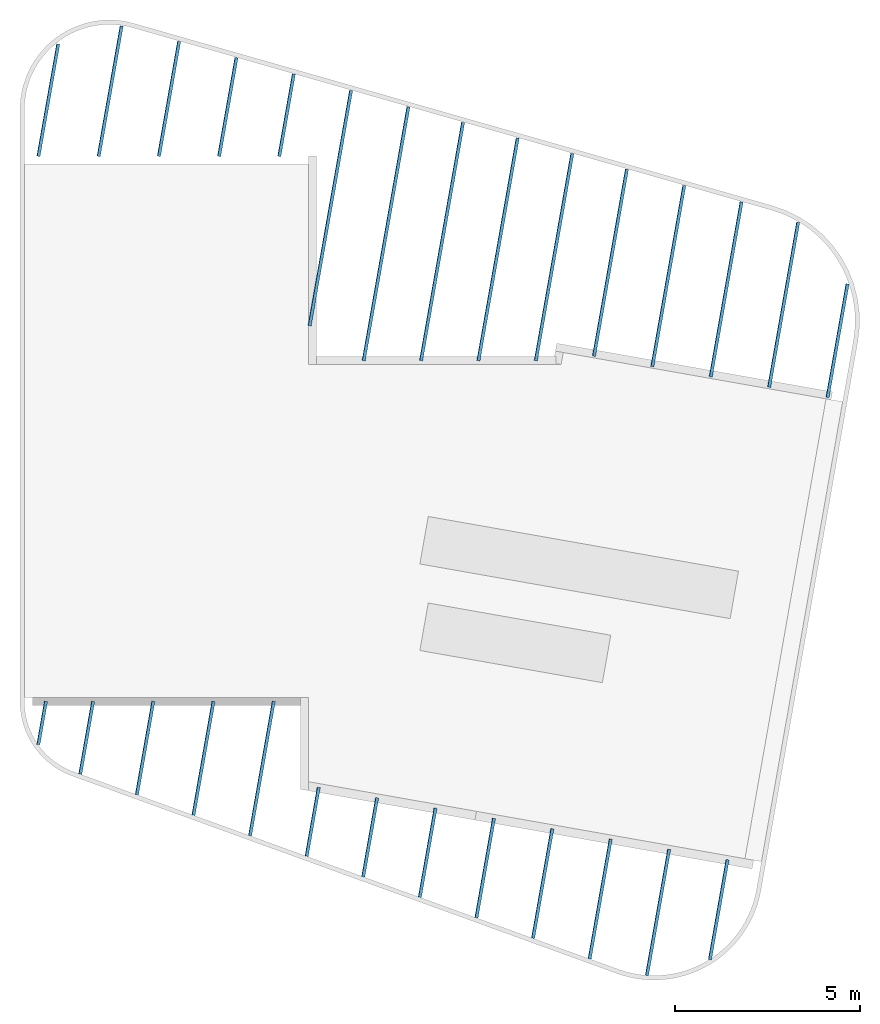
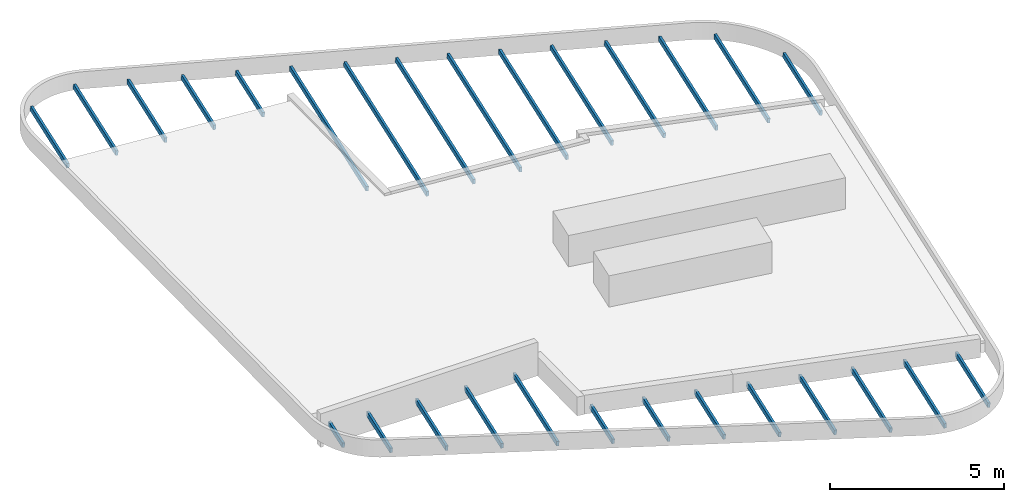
# One storey, part 1 of 3: 28 members, 2 elements without a shape of their own.
"""IFC2X3 building model written with IfcOpenShell, lengths in millimetres."""

from ifc_helpers import new_model, entity, si_unit, converted_unit, derived_unit, direction, frame, frame_2d, origin, origin_2d_with_axis, place, context, subcontext, project, spatial, rectangle, extrude, source, transform, mapped, material, type_object, type_shapes, element, aggregate, save


model = new_model("IFC2X3")

# Units and contexts
model_context = context("Model", 3, precision=0.01, world=origin(), true_north=direction((6.12303176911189e-17, 1.0)))
body_context = subcontext(model_context, "Body", "Model", "MODEL_VIEW")
ifc_project = project(units=[si_unit("LENGTHUNIT", "METRE", prefix="MILLI"), si_unit("AREAUNIT", "SQUARE_METRE"), si_unit("VOLUMEUNIT", "CUBIC_METRE"), converted_unit("PLANEANGLEUNIT", "DEGREE", entity("IfcRatioMeasure", 0.0174532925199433), si_unit("PLANEANGLEUNIT", "RADIAN"), dimensions=[0, 0, 0, 0, 0, 0, 0]), si_unit("MASSUNIT", "GRAM", prefix="KILO"), derived_unit("MASSDENSITYUNIT", [(si_unit("MASSUNIT", "GRAM", prefix="KILO"), 1), (si_unit("LENGTHUNIT", "METRE"), -3)]), si_unit("TIMEUNIT", "SECOND"), si_unit("FREQUENCYUNIT", "HERTZ"), si_unit("THERMODYNAMICTEMPERATUREUNIT", "DEGREE_CELSIUS"), derived_unit("THERMALTRANSMITTANCEUNIT", [(si_unit("MASSUNIT", "GRAM", prefix="KILO"), 1), (si_unit("THERMODYNAMICTEMPERATUREUNIT", "KELVIN"), -1), (si_unit("TIMEUNIT", "SECOND"), -3)]), derived_unit("VOLUMETRICFLOWRATEUNIT", [(si_unit("LENGTHUNIT", "METRE"), 3), (si_unit("TIMEUNIT", "SECOND"), -1)]), si_unit("ELECTRICCURRENTUNIT", "AMPERE"), si_unit("ELECTRICVOLTAGEUNIT", "VOLT"), si_unit("POWERUNIT", "WATT"), si_unit("FORCEUNIT", "NEWTON", prefix="KILO"), si_unit("ILLUMINANCEUNIT", "LUX"), si_unit("LUMINOUSFLUXUNIT", "LUMEN"), si_unit("LUMINOUSINTENSITYUNIT", "CANDELA"), derived_unit("USERDEFINED", [(si_unit("MASSUNIT", "GRAM", prefix="KILO"), -1), (si_unit("LENGTHUNIT", "METRE"), -2), (si_unit("TIMEUNIT", "SECOND"), 3), (si_unit("LUMINOUSFLUXUNIT", "LUMEN"), 1)]), derived_unit("LINEARVELOCITYUNIT", [(si_unit("LENGTHUNIT", "METRE"), 1), (si_unit("TIMEUNIT", "SECOND"), -1)]), si_unit("PRESSUREUNIT", "PASCAL"), derived_unit("USERDEFINED", [(si_unit("LENGTHUNIT", "METRE"), -2), (si_unit("MASSUNIT", "GRAM", prefix="KILO"), 1), (si_unit("TIMEUNIT", "SECOND"), -2)])], contexts=[model_context])

# Site, building, storey
site_placement = place(None, origin())
site = spatial("IfcSite", under=ifc_project, at=site_placement, Name="<Kadaster Gemeente>;<Kadaster nummer>;<Kadaster sectie>", CompositionType="ELEMENT")
building_placement = place(site_placement, origin())
building = spatial("IfcBuilding", under=site, at=building_placement, Name="JRCZ Middelburg", CompositionType="ELEMENT")
storey_placement = place(building_placement, frame((0.0, 0.0, 6000.0)))
storey = spatial("IfcBuildingStorey", under=building, at=storey_placement, Name="03 dak", CompositionType="ELEMENT", Elevation=6000.0)

# Roof, members
curtain_wall_type = type_object("IfcCurtainWallType", Name="Sloped Glazing:dakbalken", PredefinedType="NOTDEFINED")
roof_1_placement = place(storey_placement, frame((0.0, 0.0, -6000.0)))
roof_1 = element("IfcRoof", 1, at=roof_1_placement, inside=storey, type_object=curtain_wall_type, Name="Sloped Glazing:dakbalken", ObjectType="Sloped Glazing:dakbalken", ShapeType="NOTDEFINED")
ifc_material = material(Name="Staal")
member_type_1 = type_object("IfcMemberType", Name="dakbalk_80x160", PredefinedType="MEMBER")
shared_shape_1 = source(origin(), body_context, "Body", "SweptSolid", [
    extrude(rectangle(XDim=160.0, YDim=79.9999999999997, at=origin_2d_with_axis()), frame((0.0, -120.0, -3454.1834975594), z_axis=(0.0, 0.0, 1.0), x_axis=(0.0, -1.0, 0.0)), (0.0, 0.0, 1.0), 3454.1834975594),
])
type_shapes(member_type_1, [shared_shape_1])
placement = place(building_placement, origin())
member_1_placement = place(placement, frame((26326.4183682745, 2502.56536357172, 5874.05724691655), z_axis=(-0.173869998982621, -0.984768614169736, 0.0), x_axis=(-0.982010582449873, 0.173383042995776, 0.0747899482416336)))
member_1 = element("IfcMember", 2, at=member_1_placement, type_object=member_type_1, material=ifc_material, Name="Rectangular Mullion:dakbalk_80x160", ObjectType="Rectangular Mullion:dakbalk_80x160", context=body_context, shape_type="MappedRepresentation", body=[
    mapped(shared_shape_1, transform((0.0, 0.0, 0.0), scale=1.0)),
])
member_type_2 = type_object("IfcMemberType", Name="dakbalk_80x160", PredefinedType="MEMBER")
shared_shape_2 = source(origin(), body_context, "Body", "SweptSolid", [
    extrude(rectangle(XDim=160.0, YDim=79.9999999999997, at=frame_2d((0.0, 1.03028696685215e-13), x_axis=(1.0, 0.0))), frame((0.0, -120.0, -3282.54037871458), z_axis=(0.0, 0.0, 1.0), x_axis=(0.0, -1.0, 0.0)), (0.0, 0.0, 1.0), 3282.54037871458),
])
type_shapes(member_type_2, [shared_shape_2])
member_2_placement = place(placement, frame((24780.2250685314, 2949.94535669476, 5994.08939131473), z_axis=(-0.173869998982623, -0.984768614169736, 0.0), x_axis=(-0.982010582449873, 0.173383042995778, 0.0747899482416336)))
member_2 = element("IfcMember", 3, at=member_2_placement, type_object=member_type_2, material=ifc_material, Name="Rectangular Mullion:dakbalk_80x160", ObjectType="Rectangular Mullion:dakbalk_80x160", context=body_context, shape_type="MappedRepresentation", body=[
    mapped(shared_shape_2, transform((0.0, 0.0, 0.0), scale=1.0)),
])
member_type_3 = type_object("IfcMemberType", Name="dakbalk_80x160", PredefinedType="MEMBER")
shared_shape_3 = source(origin(), body_context, "Body", "SweptSolid", [
    extrude(rectangle(XDim=160.0, YDim=79.9999999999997, at=frame_2d((0.0, 9.2370555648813e-14), x_axis=(1.0, 0.0))), frame((0.0, -120.0, -3002.74274933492), z_axis=(0.0, 0.0, 1.0), x_axis=(0.0, -1.0, 0.0)), (0.0, 0.0, 1.0), 3002.74274933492),
])
type_shapes(member_type_3, [shared_shape_3])
member_3_placement = place(placement, frame((23252.8363924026, 3503.8313529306, 6114.12153537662), z_axis=(-0.173869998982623, -0.984768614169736, 0.0), x_axis=(-0.982010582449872, 0.173383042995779, 0.0747899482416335)))
member_3 = element("IfcMember", 4, at=member_3_placement, type_object=member_type_3, material=ifc_material, Name="Rectangular Mullion:dakbalk_80x160", ObjectType="Rectangular Mullion:dakbalk_80x160", context=body_context, shape_type="MappedRepresentation", body=[
    mapped(shared_shape_3, transform((0.0, 0.0, 0.0), scale=1.0)),
])
member_type_4 = type_object("IfcMemberType", Name="dakbalk_80x160", PredefinedType="MEMBER")
shared_shape_4 = source(origin(), body_context, "Body", "SweptSolid", [
    extrude(rectangle(XDim=160.0, YDim=79.9999999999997, at=frame_2d((0.0, 7.8159700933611e-14), x_axis=(1.0, 0.0))), frame((0.0, -120.0, -2722.94394578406), z_axis=(0.0, 0.0, 1.0), x_axis=(0.0, -1.0, 0.0)), (0.0, 0.0, 1.0), 2722.94394578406),
])
type_shapes(member_type_4, [shared_shape_4])
member_4_placement = place(placement, frame((21725.4477223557, 4057.71734696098, 6234.15367896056), z_axis=(-0.173869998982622, -0.984768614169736, 0.0), x_axis=(-0.982010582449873, 0.173383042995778, 0.0747899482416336)))
member_4 = element("IfcMember", 5, at=member_4_placement, type_object=member_type_4, material=ifc_material, Name="Rectangular Mullion:dakbalk_80x160", ObjectType="Rectangular Mullion:dakbalk_80x160", context=body_context, shape_type="MappedRepresentation", body=[
    mapped(shared_shape_4, transform((0.0, 0.0, 0.0), scale=1.0)),
])
member_type_5 = type_object("IfcMemberType", Name="dakbalk_80x160", PredefinedType="MEMBER")
shared_shape_5 = source(origin(), body_context, "Body", "SweptSolid", [
    extrude(rectangle(XDim=160.0, YDim=79.9999999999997, at=frame_2d((0.0, 6.75015598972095e-14), x_axis=(1.0, 0.0))), frame((0.0, -120.0, -2443.14397462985), z_axis=(0.0, 0.0, 1.0), x_axis=(0.0, -1.0, 0.0)), (0.0, 0.0, 1.0), 2443.14397462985),
])
type_shapes(member_type_5, [shared_shape_5])
member_5_placement = place(placement, frame((20198.059059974, 4611.60333821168, 6354.18582194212), z_axis=(-0.173869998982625, -0.984768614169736, 0.0), x_axis=(-0.982010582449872, 0.17338304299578, 0.0747899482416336)))
member_5 = element("IfcMember", 6, at=member_5_placement, type_object=member_type_5, material=ifc_material, Name="Rectangular Mullion:dakbalk_80x160", ObjectType="Rectangular Mullion:dakbalk_80x160", context=body_context, shape_type="MappedRepresentation", body=[
    mapped(shared_shape_5, transform((0.0, 0.0, 0.0), scale=1.0)),
])
member_type_6 = type_object("IfcMemberType", Name="dakbalk_80x160", PredefinedType="MEMBER")
shared_shape_6 = source(origin(), body_context, "Body", "SweptSolid", [
    extrude(rectangle(XDim=160.0, YDim=79.9999999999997, at=frame_2d((0.0, 6.75015598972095e-14), x_axis=(1.0, 0.0))), frame((0.0, -120.0, -1992.08721443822), z_axis=(0.0, 0.0, 1.0), x_axis=(0.0, -1.0, 0.0)), (0.0, 0.0, 1.0), 1992.08721443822),
])
type_shapes(member_type_6, [shared_shape_6])
member_6_placement = place(placement, frame((11035.558815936, 7934.25503453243, 7074.23473054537), z_axis=(-0.173869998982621, -0.984768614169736, 0.0), x_axis=(-0.982010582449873, 0.173383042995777, 0.0747899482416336)))
member_6 = element("IfcMember", 7, at=member_6_placement, type_object=member_type_6, material=ifc_material, Name="Rectangular Mullion:dakbalk_80x160", ObjectType="Rectangular Mullion:dakbalk_80x160", context=body_context, shape_type="MappedRepresentation", body=[
    mapped(shared_shape_6, transform((0.0, 0.0, 0.0), scale=1.0)),
])
member_type_7 = type_object("IfcMemberType", Name="dakbalk_80x160", PredefinedType="MEMBER")
shared_shape_7 = source(origin(), body_context, "Body", "SweptSolid", [
    extrude(rectangle(XDim=160.0, YDim=79.9999999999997, at=origin_2d_with_axis()), frame((0.0, -120.0, -3116.65488935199), z_axis=(0.0, 0.0, 1.0), x_axis=(0.0, -1.0, 0.0)), (0.0, 0.0, 1.0), 3116.65488935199),
])
type_shapes(member_type_7, [shared_shape_7])
member_7_placement = place(placement, frame((14089.4177768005, 6826.81608376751, 6834.24261559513), z_axis=(-0.173869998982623, -0.984768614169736, 0.0), x_axis=(-0.982010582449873, 0.173383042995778, 0.0747899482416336)))
member_7 = element("IfcMember", 8, at=member_7_placement, type_object=member_type_7, material=ifc_material, Name="Rectangular Mullion:dakbalk_80x160", ObjectType="Rectangular Mullion:dakbalk_80x160", context=body_context, shape_type="MappedRepresentation", body=[
    mapped(shared_shape_7, transform((0.0, 0.0, 0.0), scale=1.0)),
])
member_type_8 = type_object("IfcMemberType", Name="dakbalk_80x160", PredefinedType="MEMBER")
shared_shape_8 = source(origin(), body_context, "Body", "SweptSolid", [
    extrude(rectangle(XDim=160.0, YDim=79.9999999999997, at=frame_2d((0.0, 6.75015598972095e-14), x_axis=(1.0, 0.0))), frame((0.0, -120.0, -2163.35447954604), z_axis=(0.0, 0.0, 1.0), x_axis=(0.0, -1.0, 0.0)), (0.0, 0.0, 1.0), 2163.35447954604),
])
type_shapes(member_type_8, [shared_shape_8])
member_8_placement = place(placement, frame((18670.7339297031, 5165.46629043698, 6474.21297215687), z_axis=(-0.17386999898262, -0.984768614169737, 0.0), x_axis=(-0.982010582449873, 0.173383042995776, 0.0747899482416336)))
member_8 = element("IfcMember", 9, at=member_8_placement, type_object=member_type_8, material=ifc_material, Name="Rectangular Mullion:dakbalk_80x160", ObjectType="Rectangular Mullion:dakbalk_80x160", context=body_context, shape_type="MappedRepresentation", body=[
    mapped(shared_shape_8, transform((0.0, 0.0, 0.0), scale=1.0)),
])
member_type_9 = type_object("IfcMemberType", Name="dakbalk_80x160", PredefinedType="MEMBER")
shared_shape_9 = source(origin(), body_context, "Body", "SweptSolid", [
    extrude(rectangle(XDim=160.0, YDim=79.9999999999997, at=origin_2d_with_axis()), frame((0.0, -120.0, -2739.28499188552), z_axis=(0.0, 0.0, 1.0), x_axis=(0.0, -1.0, 0.0)), (0.0, 0.0, 1.0), 2739.28499188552),
])
type_shapes(member_type_9, [shared_shape_9])
member_9_placement = place(placement, frame((28026.1179829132, 2928.29109883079, 5754.07300435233), z_axis=(-0.173869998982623, -0.984768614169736, 0.0), x_axis=(-0.982010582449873, 0.173383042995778, 0.0747899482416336)))
member_9 = element("IfcMember", 10, at=member_9_placement, type_object=member_type_9, material=ifc_material, Name="Rectangular Mullion:dakbalk_80x160", ObjectType="Rectangular Mullion:dakbalk_80x160", context=body_context, shape_type="MappedRepresentation", body=[
    mapped(shared_shape_9, transform((0.0, 0.0, 0.0), scale=1.0)),
])
member_type_10 = type_object("IfcMemberType", Name="dakbalk_80x160", PredefinedType="MEMBER")
shared_shape_10 = source(origin(), body_context, "Body", "SweptSolid", [
    extrude(rectangle(XDim=160.0, YDim=79.9999999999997, at=frame_2d((0.0, 1.35003119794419e-13), x_axis=(1.0, 0.0))), frame((0.0, -120.0, -3679.08381813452), z_axis=(0.0, 0.0, 1.0), x_axis=(0.0, -1.0, 0.0)), (0.0, 0.0, 1.0), 3679.08381813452),
])
type_shapes(member_type_10, [shared_shape_10])
member_10_placement = place(placement, frame((15616.7412650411, 6272.95372700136, 6714.2155944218), z_axis=(-0.173869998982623, -0.984768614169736, 0.0), x_axis=(-0.982010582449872, 0.173383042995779, 0.0747899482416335)))
member_10 = element("IfcMember", 11, at=member_10_placement, type_object=member_type_10, material=ifc_material, Name="Rectangular Mullion:dakbalk_80x160", ObjectType="Rectangular Mullion:dakbalk_80x160", context=body_context, shape_type="MappedRepresentation", body=[
    mapped(shared_shape_10, transform((0.0, 0.0, 0.0), scale=1.0)),
])
member_type_11 = type_object("IfcMemberType", Name="dakbalk_80x160", PredefinedType="MEMBER")
shared_shape_11 = source(origin(), body_context, "Body", "SweptSolid", [
    extrude(rectangle(XDim=160.0, YDim=79.9999999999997, at=frame_2d((0.0, 6.75015598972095e-14), x_axis=(1.0, 0.0))), frame((0.0, -120.0, -2554.40205154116), z_axis=(0.0, 0.0, 1.0), x_axis=(0.0, -1.0, 0.0)), (0.0, 0.0, 1.0), 2554.40205154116),
])
type_shapes(member_type_11, [shared_shape_11])
member_11_placement = place(storey_placement, frame((12562.572478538, 7380.50503167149, 954.232057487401), z_axis=(-0.173869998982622, -0.984768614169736, 0.0), x_axis=(-0.982010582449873, 0.173383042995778, 0.0747899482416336)))
member_11 = element("IfcMember", 12, at=member_11_placement, type_object=member_type_11, material=ifc_material, Name="Rectangular Mullion:dakbalk_80x160", ObjectType="Rectangular Mullion:dakbalk_80x160", context=body_context, shape_type="MappedRepresentation", body=[
    mapped(shared_shape_11, transform((0.0, 0.0, 0.0), scale=1.0)),
])
member_type_12 = type_object("IfcMemberType", Name="dakbalk_80x160", PredefinedType="MEMBER")
shared_shape_12 = source(origin(), body_context, "Body", "SweptSolid", [
    extrude(rectangle(XDim=160.0, YDim=79.9999999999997, at=origin_2d_with_axis()), frame((0.0, -120.0, -1883.60236103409), z_axis=(0.0, 0.0, 1.0), x_axis=(0.0, -1.0, 0.0)), (0.0, 0.0, 1.0), 1883.60236103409),
])
type_shapes(member_type_12, [shared_shape_12])
member_12_placement = place(storey_placement, frame((17143.6191373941, 5719.25296656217, 594.223592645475), z_axis=(-0.173869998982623, -0.984768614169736, 0.0), x_axis=(-0.982010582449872, 0.173383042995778, 0.0747899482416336)))
member_12 = element("IfcMember", 13, at=member_12_placement, type_object=member_type_12, material=ifc_material, Name="Rectangular Mullion:dakbalk_80x160", ObjectType="Rectangular Mullion:dakbalk_80x160", context=body_context, shape_type="MappedRepresentation", body=[
    mapped(shared_shape_12, transform((0.0, 0.0, 0.0), scale=1.0)),
])
member_type_13 = type_object("IfcMemberType", Name="dakbalk_80x160", PredefinedType="MEMBER")
shared_shape_13 = source(origin(), body_context, "Body", "SweptSolid", [
    extrude(rectangle(XDim=160.0, YDim=79.9999999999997, at=origin_2d_with_axis()), frame((0.0, -120.0, -1182.44042654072), z_axis=(0.0, 0.0, 1.0), x_axis=(0.0, -1.0, 0.0)), (0.0, 0.0, 1.0), 1182.44042654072),
])
type_shapes(member_type_13, [shared_shape_13])
member_13_placement = place(storey_placement, frame((9904.43175834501, 8731.56977981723, 1168.17429596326), z_axis=(-0.173869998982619, -0.984768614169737, 0.0), x_axis=(-0.982010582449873, 0.173383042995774, 0.0747899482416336)))
member_13 = element("IfcMember", 14, at=member_13_placement, type_object=member_type_13, material=ifc_material, Name="Rectangular Mullion:dakbalk_80x160", ObjectType="Rectangular Mullion:dakbalk_80x160", context=body_context, shape_type="MappedRepresentation", body=[
    mapped(shared_shape_13, transform((0.0, 0.0, 0.0), scale=1.0)),
])
aggregate(roof_1, [member_1, member_2, member_3, member_4, member_5, member_6, member_7, member_8, member_9, member_10, member_11, member_12, member_13])

roof_2_placement = place(storey_placement, frame((0.0, 0.0, -6000.0)))
roof_2 = element("IfcRoof", 15, at=roof_2_placement, inside=storey, type_object=curtain_wall_type, Name="Sloped Glazing:dakbalken", ObjectType="Sloped Glazing:dakbalken", ShapeType="NOTDEFINED")
member_type_14 = type_object("IfcMemberType", Name="dakbalk_80x160", PredefinedType="MEMBER")
shared_shape_14 = source(origin(), body_context, "Body", "SweptSolid", [
    extrude(rectangle(XDim=160.0, YDim=79.9999999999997, at=frame_2d((0.0, 1.03028696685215e-13), x_axis=(1.0, 0.0))), frame((0.0, -120.0, -3113.52501959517), z_axis=(0.0, 0.0, 1.0), x_axis=(0.0, -1.0, 0.0)), (0.0, 0.0, 1.0), 3113.52501959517),
])
type_shapes(member_type_14, [shared_shape_14])
member_14_placement = place(placement, frame((31199.7284501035, 18097.5236304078, 5713.68098779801), z_axis=(-0.173648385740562, -0.98480771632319, 0.0), x_axis=(-0.982049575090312, 0.173162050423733, 0.0747899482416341)))
member_14 = element("IfcMember", 16, at=member_14_placement, type_object=member_type_14, material=ifc_material, Name="Rectangular Mullion:dakbalk_80x160", ObjectType="Rectangular Mullion:dakbalk_80x160", context=body_context, shape_type="MappedRepresentation", body=[
    mapped(shared_shape_14, transform((0.0, 0.0, 0.0), scale=1.0)),
])
member_type_15 = type_object("IfcMemberType", Name="dakbalk_80x160", PredefinedType="MEMBER")
shared_shape_15 = source(origin(), body_context, "Body", "SweptSolid", [
    extrude(rectangle(XDim=160.0, YDim=79.9999999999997, at=origin_2d_with_axis()), frame((0.0, -120.0, -4517.87403867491), z_axis=(0.0, 0.0, 1.0), x_axis=(0.0, -1.0, 0.0)), (0.0, 0.0, 1.0), 4517.87403867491),
])
type_shapes(member_type_15, [shared_shape_15])
member_15_placement = place(placement, frame((29623.8464143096, 18375.394495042, 5833.69543399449), z_axis=(-0.173648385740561, -0.98480771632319, 0.0), x_axis=(-0.982049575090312, 0.173162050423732, 0.0747899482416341)))
member_15 = element("IfcMember", 17, at=member_15_placement, type_object=member_type_15, material=ifc_material, Name="Rectangular Mullion:dakbalk_80x160", ObjectType="Rectangular Mullion:dakbalk_80x160", context=body_context, shape_type="MappedRepresentation", body=[
    mapped(shared_shape_15, transform((0.0, 0.0, 0.0), scale=1.0)),
])
member_type_16 = type_object("IfcMemberType", Name="dakbalk_80x160", PredefinedType="MEMBER")
shared_shape_16 = source(origin(), body_context, "Body", "SweptSolid", [
    extrude(rectangle(XDim=160.0, YDim=79.9999999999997, at=frame_2d((0.0, 1.35003119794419e-13), x_axis=(1.0, 0.0))), frame((0.0, -120.0, -4795.45222745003), z_axis=(0.0, 0.0, 1.0), x_axis=(0.0, -1.0, 0.0)), (0.0, 0.0, 1.0), 4795.45222745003),
])
type_shapes(member_type_16, [shared_shape_16])
member_16_placement = place(placement, frame((28048.1957274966, 18653.2245665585, 5953.69226134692), z_axis=(-0.173648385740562, -0.98480771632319, 0.0), x_axis=(-0.982049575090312, 0.173162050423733, 0.0747899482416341)))
member_16 = element("IfcMember", 18, at=member_16_placement, type_object=member_type_16, material=ifc_material, Name="Rectangular Mullion:dakbalk_80x160", ObjectType="Rectangular Mullion:dakbalk_80x160", context=body_context, shape_type="MappedRepresentation", body=[
    mapped(shared_shape_16, transform((0.0, 0.0, 0.0), scale=1.0)),
])
member_type_17 = type_object("IfcMemberType", Name="dakbalk_80x160", PredefinedType="MEMBER")
shared_shape_17 = source(origin(), body_context, "Body", "SweptSolid", [
    extrude(rectangle(XDim=160.0, YDim=79.9999999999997, at=frame_2d((0.0, 1.35003119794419e-13), x_axis=(1.0, 0.0))), frame((0.0, -120.0, -4961.56793290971), z_axis=(0.0, 0.0, 1.0), x_axis=(0.0, -1.0, 0.0)), (0.0, 0.0, 1.0), 4961.56793290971),
])
type_shapes(member_type_17, [shared_shape_17])
member_17_placement = place(placement, frame((26472.593595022, 18931.0460766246, 6073.68539094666), z_axis=(-0.173648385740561, -0.98480771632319, 0.0), x_axis=(-0.982049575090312, 0.173162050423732, 0.0747899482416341)))
member_17 = element("IfcMember", 19, at=member_17_placement, type_object=member_type_17, material=ifc_material, Name="Rectangular Mullion:dakbalk_80x160", ObjectType="Rectangular Mullion:dakbalk_80x160", context=body_context, shape_type="MappedRepresentation", body=[
    mapped(shared_shape_17, transform((0.0, 0.0, 0.0), scale=1.0)),
])
member_type_18 = type_object("IfcMemberType", Name="dakbalk_80x160", PredefinedType="MEMBER")
shared_shape_18 = source(origin(), body_context, "Body", "SweptSolid", [
    extrude(rectangle(XDim=160.0, YDim=79.9999999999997, at=frame_2d((0.0, 1.66977542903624e-13), x_axis=(1.0, 0.0))), frame((0.0, -120.0, -5675.56516706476), z_axis=(0.0, 0.0, 1.0), x_axis=(0.0, -1.0, 0.0)), (0.0, 0.0, 1.0), 5675.56516706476),
])
type_shapes(member_type_18, [shared_shape_18])
member_18_placement = place(placement, frame((23328.2198035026, 19090.5028463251, 6308.00736471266), z_axis=(-0.173648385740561, -0.98480771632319, 0.0), x_axis=(-0.982049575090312, 0.173162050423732, 0.0747899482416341)))
member_18 = element("IfcMember", 20, at=member_18_placement, type_object=member_type_18, material=ifc_material, Name="Rectangular Mullion:dakbalk_80x160", ObjectType="Rectangular Mullion:dakbalk_80x160", context=body_context, shape_type="MappedRepresentation", body=[
    mapped(shared_shape_18, transform((0.0, 0.0, 0.0), scale=1.0)),
])
member_type_19 = type_object("IfcMemberType", Name="dakbalk_80x160", PredefinedType="MEMBER")
shared_shape_19 = source(origin(), body_context, "Body", "SweptSolid", [
    extrude(rectangle(XDim=160.0, YDim=79.9999999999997, at=frame_2d((0.0, 1.66977542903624e-13), x_axis=(1.0, 0.0))), frame((0.0, -120.0, -6103.017165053), z_axis=(0.0, 0.0, 1.0), x_axis=(0.0, -1.0, 0.0)), (0.0, 0.0, 1.0), 6103.017165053),
])
type_shapes(member_type_19, [shared_shape_19])
member_19_placement = place(placement, frame((21779.7970616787, 19090.5028463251, 6422.37476453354), z_axis=(-0.173648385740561, -0.98480771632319, 0.0), x_axis=(-0.982049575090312, 0.173162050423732, 0.0747899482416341)))
member_19 = element("IfcMember", 21, at=member_19_placement, type_object=member_type_19, material=ifc_material, Name="Rectangular Mullion:dakbalk_80x160", ObjectType="Rectangular Mullion:dakbalk_80x160", context=body_context, shape_type="MappedRepresentation", body=[
    mapped(shared_shape_19, transform((0.0, 0.0, 0.0), scale=1.0)),
])
member_type_20 = type_object("IfcMemberType", Name="dakbalk_80x160", PredefinedType="MEMBER")
shared_shape_20 = source(origin(), body_context, "Body", "SweptSolid", [
    extrude(rectangle(XDim=160.0, YDim=79.9999999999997, at=frame_2d((0.0, 9.2370555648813e-14), x_axis=(1.0, 0.0))), frame((0.0, -120.0, -6530.3978398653), z_axis=(0.0, 0.0, 1.0), x_axis=(0.0, -1.0, 0.0)), (0.0, 0.0, 1.0), 6530.3978398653),
])
type_shapes(member_type_20, [shared_shape_20])
member_20_placement = place(placement, frame((20231.6326843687, 19090.5028463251, 6536.72308140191), z_axis=(-0.173648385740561, -0.98480771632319, 0.0), x_axis=(-0.982049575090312, 0.173162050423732, 0.0747899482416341)))
member_20 = element("IfcMember", 22, at=member_20_placement, type_object=member_type_20, material=ifc_material, Name="Rectangular Mullion:dakbalk_80x160", ObjectType="Rectangular Mullion:dakbalk_80x160", context=body_context, shape_type="MappedRepresentation", body=[
    mapped(shared_shape_20, transform((0.0, 0.0, 0.0), scale=1.0)),
])
member_type_21 = type_object("IfcMemberType", Name="dakbalk_80x160", PredefinedType="MEMBER")
shared_shape_21 = source(origin(), body_context, "Body", "SweptSolid", [
    extrude(rectangle(XDim=160.0, YDim=79.9999999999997, at=origin_2d_with_axis()), frame((0.0, -120.0, -6448.29250868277), z_axis=(0.0, 0.0, 1.0), x_axis=(0.0, -1.0, 0.0)), (0.0, 0.0, 1.0), 6448.29250868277),
])
type_shapes(member_type_21, [shared_shape_21])
member_21_placement = place(placement, frame((17224.6819791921, 20034.0693548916, 6771.10686076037), z_axis=(-0.173648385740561, -0.98480771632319, 0.0), x_axis=(-0.982049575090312, 0.173162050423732, 0.0747899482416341)))
member_21 = element("IfcMember", 23, at=member_21_placement, type_object=member_type_21, material=ifc_material, Name="Rectangular Mullion:dakbalk_80x160", ObjectType="Rectangular Mullion:dakbalk_80x160", context=body_context, shape_type="MappedRepresentation", body=[
    mapped(shared_shape_21, transform((0.0, 0.0, 0.0), scale=1.0)),
])
member_type_22 = type_object("IfcMemberType", Name="dakbalk_80x160", PredefinedType="MEMBER")
shared_shape_22 = source(origin(), body_context, "Body", "SweptSolid", [
    extrude(rectangle(XDim=160.0, YDim=79.9999999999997, at=frame_2d((0.0, 6.75015598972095e-14), x_axis=(1.0, 0.0))), frame((0.0, -120.0, -2256.63442540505), z_axis=(0.0, 0.0, 1.0), x_axis=(0.0, -1.0, 0.0)), (0.0, 0.0, 1.0), 2256.63442540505),
])
type_shapes(member_type_22, [shared_shape_22])
member_22_placement = place(placement, frame((16406.0682069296, 24603.6476584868, 6891.08263992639), z_axis=(-0.173648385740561, -0.98480771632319, 0.0), x_axis=(-0.982049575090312, 0.173162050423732, 0.0747899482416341)))
member_22 = element("IfcMember", 24, at=member_22_placement, type_object=member_type_22, material=ifc_material, Name="Rectangular Mullion:dakbalk_80x160", ObjectType="Rectangular Mullion:dakbalk_80x160", context=body_context, shape_type="MappedRepresentation", body=[
    mapped(shared_shape_22, transform((0.0, 0.0, 0.0), scale=1.0)),
])
member_type_23 = type_object("IfcMemberType", Name="dakbalk_80x160", PredefinedType="MEMBER")
shared_shape_23 = source(origin(), body_context, "Body", "SweptSolid", [
    extrude(rectangle(XDim=160.0, YDim=79.9999999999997, at=frame_2d((0.0, 7.8159700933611e-14), x_axis=(1.0, 0.0))), frame((0.0, -120.0, -2705.15007567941), z_axis=(0.0, 0.0, 1.0), x_axis=(0.0, -1.0, 0.0)), (0.0, 0.0, 1.0), 2705.15007567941),
])
type_shapes(member_type_23, [shared_shape_23])
member_23_placement = place(placement, frame((14781.3434747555, 24603.6476584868, 7011.08574891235), z_axis=(-0.173648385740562, -0.98480771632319, 0.0), x_axis=(-0.982049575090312, 0.173162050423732, 0.0747899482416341)))
member_23 = element("IfcMember", 25, at=member_23_placement, type_object=member_type_23, material=ifc_material, Name="Rectangular Mullion:dakbalk_80x160", ObjectType="Rectangular Mullion:dakbalk_80x160", context=body_context, shape_type="MappedRepresentation", body=[
    mapped(shared_shape_23, transform((0.0, 0.0, 0.0), scale=1.0)),
])
member_type_24 = type_object("IfcMemberType", Name="dakbalk_80x160", PredefinedType="MEMBER")
shared_shape_24 = source(origin(), body_context, "Body", "SweptSolid", [
    extrude(rectangle(XDim=160.0, YDim=79.9999999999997, at=frame_2d((0.0, 9.2370555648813e-14), x_axis=(1.0, 0.0))), frame((0.0, -120.0, -3153.57743585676), z_axis=(0.0, 0.0, 1.0), x_axis=(0.0, -1.0, 0.0)), (0.0, 0.0, 1.0), 3153.57743585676),
])
type_shapes(member_type_24, [shared_shape_24])
member_24_placement = place(placement, frame((13156.9385688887, 24603.6476584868, 7131.06523534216), z_axis=(-0.173648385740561, -0.98480771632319, 0.0), x_axis=(-0.982049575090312, 0.173162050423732, 0.0747899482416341)))
member_24 = element("IfcMember", 26, at=member_24_placement, type_object=member_type_24, material=ifc_material, Name="Rectangular Mullion:dakbalk_80x160", ObjectType="Rectangular Mullion:dakbalk_80x160", context=body_context, shape_type="MappedRepresentation", body=[
    mapped(shared_shape_24, transform((0.0, 0.0, 0.0), scale=1.0)),
])
member_type_25 = type_object("IfcMemberType", Name="dakbalk_80x160", PredefinedType="MEMBER")
shared_shape_25 = source(origin(), body_context, "Body", "SweptSolid", [
    extrude(rectangle(XDim=160.0, YDim=79.9999999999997, at=origin_2d_with_axis()), frame((0.0, -120.0, -3573.82213290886), z_axis=(0.0, 0.0, 1.0), x_axis=(0.0, -1.0, 0.0)), (0.0, 0.0, 1.0), 3573.82213290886),
])
type_shapes(member_type_25, [shared_shape_25])
member_25_placement = place(placement, frame((11531.8205881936, 24603.6476584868, 7251.09738989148), z_axis=(-0.17364838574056, -0.98480771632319, 0.0), x_axis=(-0.982049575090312, 0.173162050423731, 0.0747899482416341)))
member_25 = element("IfcMember", 27, at=member_25_placement, type_object=member_type_25, material=ifc_material, Name="Rectangular Mullion:dakbalk_80x160", ObjectType="Rectangular Mullion:dakbalk_80x160", context=body_context, shape_type="MappedRepresentation", body=[
    mapped(shared_shape_25, transform((0.0, 0.0, 0.0), scale=1.0)),
])
member_type_26 = type_object("IfcMemberType", Name="dakbalk_80x160", PredefinedType="MEMBER")
shared_shape_26 = source(origin(), body_context, "Body", "SweptSolid", [
    extrude(rectangle(XDim=160.0, YDim=79.9999999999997, at=frame_2d((0.0, 1.45661260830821e-13), x_axis=(1.0, 0.0))), frame((0.0, -120.0, -5128.00219965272), z_axis=(0.0, 0.0, 1.0), x_axis=(0.0, -1.0, 0.0)), (0.0, 0.0, 1.0), 5128.00219965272),
])
type_shapes(member_type_26, [shared_shape_26])
member_26_placement = place(placement, frame((24897.2987827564, 19208.8133977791, 6193.65511596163), z_axis=(-0.173648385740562, -0.98480771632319, 0.0), x_axis=(-0.982049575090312, 0.173162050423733, 0.0747899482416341)))
member_26 = element("IfcMember", 28, at=member_26_placement, type_object=member_type_26, material=ifc_material, Name="Rectangular Mullion:dakbalk_80x160", ObjectType="Rectangular Mullion:dakbalk_80x160", context=body_context, shape_type="MappedRepresentation", body=[
    mapped(shared_shape_26, transform((0.0, 0.0, 0.0), scale=1.0)),
])
member_type_27 = type_object("IfcMemberType", Name="dakbalk_80x160", PredefinedType="MEMBER")
shared_shape_27 = source(origin(), body_context, "Body", "SweptSolid", [
    extrude(rectangle(XDim=160.0, YDim=79.9999999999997, at=frame_2d((0.0, 2.02504679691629e-13), x_axis=(1.0, 0.0))), frame((0.0, -120.0, -6957.73884313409), z_axis=(0.0, 0.0, 1.0), x_axis=(0.0, -1.0, 0.0)), (0.0, 0.0, 1.0), 6957.73884313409),
])
type_shapes(member_type_27, [shared_shape_27])
member_27_placement = place(placement, frame((18683.3004168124, 19090.5028463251, 6651.08379874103), z_axis=(-0.173648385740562, -0.98480771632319, 0.0), x_axis=(-0.982049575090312, 0.173162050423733, 0.0747899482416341)))
member_27 = element("IfcMember", 29, at=member_27_placement, type_object=member_type_27, material=ifc_material, Name="Rectangular Mullion:dakbalk_80x160", ObjectType="Rectangular Mullion:dakbalk_80x160", context=body_context, shape_type="MappedRepresentation", body=[
    mapped(shared_shape_27, transform((0.0, 0.0, 0.0), scale=1.0)),
])
member_type_28 = type_object("IfcMemberType", Name="dakbalk_80x160", PredefinedType="MEMBER")
shared_shape_28 = source(origin(), body_context, "Body", "SweptSolid", [
    extrude(rectangle(XDim=160.0, YDim=79.9999999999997, at=frame_2d((0.0, 9.2370555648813e-14), x_axis=(1.0, 0.0))), frame((0.0, -120.0, -3078.76301264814), z_axis=(0.0, 0.0, 1.0), x_axis=(0.0, -1.0, 0.0)), (0.0, 0.0, 1.0), 3078.76301264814),
])
type_shapes(member_type_28, [shared_shape_28])
member_28_placement = place(storey_placement, frame((9906.65781785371, 24603.6476584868, 1371.13285262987), z_axis=(-0.173648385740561, -0.98480771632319, 0.0), x_axis=(-0.982049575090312, 0.173162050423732, 0.0747899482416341)))
member_28 = element("IfcMember", 30, at=member_28_placement, type_object=member_type_28, material=ifc_material, Name="Rectangular Mullion:dakbalk_80x160", ObjectType="Rectangular Mullion:dakbalk_80x160", context=body_context, shape_type="MappedRepresentation", body=[
    mapped(shared_shape_28, transform((0.0, 0.0, 0.0), scale=1.0)),
])
aggregate(roof_2, [member_14, member_15, member_16, member_17, member_18, member_19, member_20, member_21, member_22, member_23, member_24, member_25, member_26, member_27, member_28])

save(model, "model.ifc")
